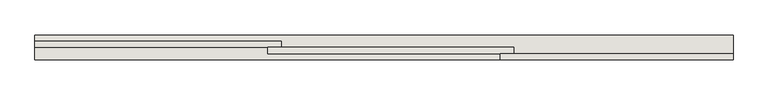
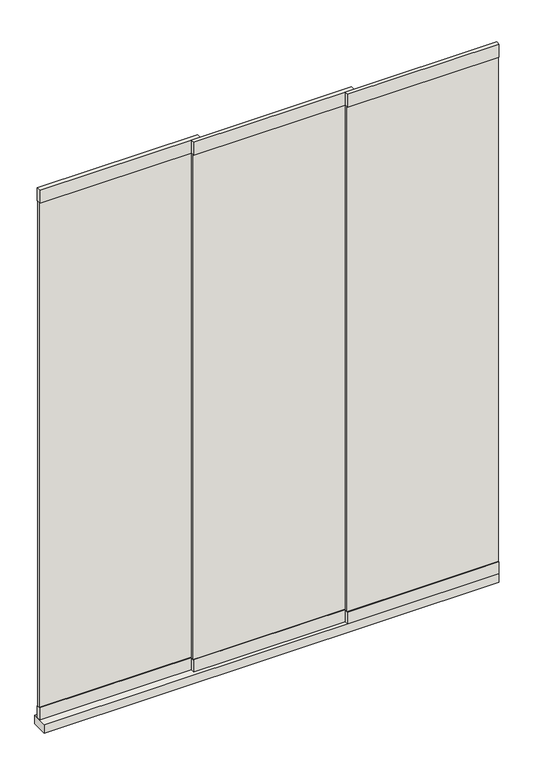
"""IFC4 building model written with IfcOpenShell, lengths in millimetres: wall geometry, Renson_Camargue_Glass_Sliding_Panel : Renson_Camargue_Glass_Sliding_Panel."""

from ifc_helpers import new_model, si_unit, frame, origin, origin_with_axes, place, context, project, spatial, polyline, outline, extrude, source, transform, mapped, element, save


def wall_c6d8e78c(model_context):
    return source(origin(), model_context, "Body", "SweptSolid", [
        extrude(outline(polyline([(750.0, 0.0), (-1050.0, 0.0), (-1050.0, 64.0), (750.0, 64.0), (750.0, 0.0)])), origin_with_axes(), (0.0, 0.0, 1.0), 35.0),
        extrude(outline(polyline([(750.0, 3.0), (150.0, 3.0), (150.0, 13.0), (750.0, 13.0), (750.0, 3.0)])), frame((0.0, 0.0, 86.0), z_axis=(0.0, 0.0, 1.0), x_axis=(1.0, 0.0, 0.0)), (0.0, 0.0, 1.0), 2110.0),
        extrude(outline(polyline([(185.0, 19.0), (-450.0, 19.0), (-450.0, 29.0), (185.0, 29.0), (185.0, 19.0)])), frame((0.0, 0.0, 86.0), z_axis=(0.0, 0.0, 1.0), x_axis=(1.0, 0.0, 0.0)), (0.0, 0.0, 1.0), 2110.0),
        extrude(outline(polyline([(-415.0, 35.0), (-1050.0, 35.0), (-1050.0, 45.0), (-415.0, 45.0), (-415.0, 35.0)])), frame((0.0, 0.0, 86.0), z_axis=(0.0, 0.0, 1.0), x_axis=(1.0, 0.0, 0.0)), (0.0, 0.0, 1.0), 2110.0),
        extrude(outline(polyline([(750.0, 0.0), (150.0, 0.0), (150.0, 16.0), (750.0, 16.0), (750.0, 0.0)])), frame((0.0, 0.0, 2196.0), z_axis=(0.0, 0.0, 1.0), x_axis=(1.0, 0.0, 0.0)), (0.0, 0.0, 1.0), 54.0),
        extrude(outline(polyline([(185.0, 16.0), (-450.0, 16.0), (-450.0, 32.0), (185.0, 32.0), (185.0, 16.0)])), frame((0.0, 0.0, 2196.0), z_axis=(0.0, 0.0, 1.0), x_axis=(1.0, 0.0, 0.0)), (0.0, 0.0, 1.0), 54.0),
        extrude(outline(polyline([(-415.0, 32.0), (-1050.0, 32.0), (-1050.0, 48.0), (-415.0, 48.0), (-415.0, 32.0)])), frame((0.0, 0.0, 2196.0), z_axis=(0.0, 0.0, 1.0), x_axis=(1.0, 0.0, 0.0)), (0.0, 0.0, 1.0), 54.0),
        extrude(outline(polyline([(750.0, 0.0), (150.0, 0.0), (150.0, 16.0), (750.0, 16.0), (750.0, 0.0)])), frame((0.0, 0.0, 35.0), z_axis=(0.0, 0.0, 1.0), x_axis=(1.0, 0.0, 0.0)), (0.0, 0.0, 1.0), 51.0),
        extrude(outline(polyline([(185.0, 16.0), (-450.0, 16.0), (-450.0, 32.0), (185.0, 32.0), (185.0, 16.0)])), frame((0.0, 0.0, 35.0), z_axis=(0.0, 0.0, 1.0), x_axis=(1.0, 0.0, 0.0)), (0.0, 0.0, 1.0), 51.0),
        extrude(outline(polyline([(-415.0, 32.0), (-1050.0, 32.0), (-1050.0, 48.0), (-415.0, 48.0), (-415.0, 32.0)])), frame((0.0, 0.0, 35.0), z_axis=(0.0, 0.0, 1.0), x_axis=(1.0, 0.0, 0.0)), (0.0, 0.0, 1.0), 51.0),
    ])


if __name__ == "__main__":
    model = new_model("IFC4")
    model_context = context("Model", 3, world=origin())
    ifc_project = project(units=[si_unit("LENGTHUNIT", "METRE", prefix="MILLI")], contexts=[model_context])
    site = spatial("IfcSite", under=ifc_project)
    building = spatial("IfcBuilding", under=site)
    placement = place(None, origin())
    wall_shape = wall_c6d8e78c(model_context)
    element("IfcWall", 1, ObjectType="Renson_Camargue_Glass_Sliding_Panel : Renson_Camargue_Glass_Sliding_Panel", at=placement, inside=building, context=model_context, shape_type="MappedRepresentation", body=[
        mapped(wall_shape, transform((0.0, 0.0, 0.0), x_axis=(1.0, 0.0, 0.0), y_axis=(0.0, 1.0, 0.0), z_axis=(0.0, 0.0, 1.0))),
    ])
    save(model, "model.ifc")
